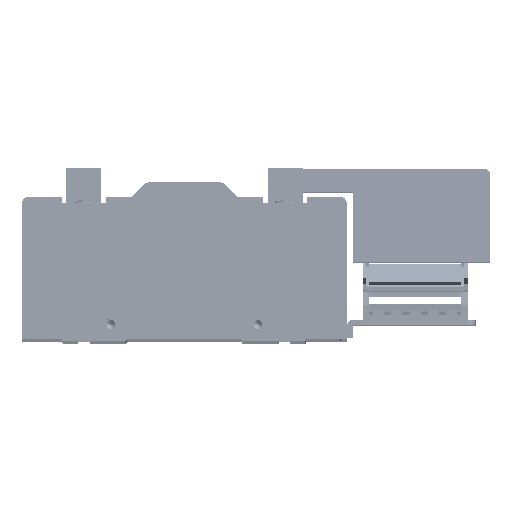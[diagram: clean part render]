
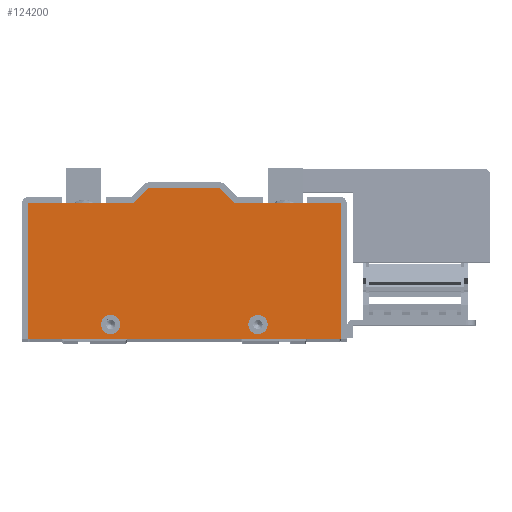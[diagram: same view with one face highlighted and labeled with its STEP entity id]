
A CAD part, top view. The second image highlights one B-rep face of the part: STEP entity #124200.
In plain terms, the highlighted planar face has unit normal (0, 0, 1).
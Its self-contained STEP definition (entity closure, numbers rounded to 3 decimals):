
#30213 = CARTESIAN_POINT ( 'NONE',  ( -85., -37., 9.525 ) ) ;
#30276 = DIRECTION ( 'NONE',  ( 1., 0., 0. ) ) ;
#30277 = VECTOR ( 'NONE', #30276, 1000. ) ;
#30278 = CARTESIAN_POINT ( 'NONE',  ( -85., -37., 9.525 ) ) ;
#30279 = LINE ( 'NONE', #30278, #30277 ) ;
#30394 = DIRECTION ( 'NONE',  ( 1., 0., 0. ) ) ;
#30395 = DIRECTION ( 'NONE',  ( 0., 0., 1. ) ) ;
#30396 = CARTESIAN_POINT ( 'NONE',  ( -40., -29., 9.525 ) ) ;
#30397 = AXIS2_PLACEMENT_3D ( 'NONE', #30396, #30395, #30394 ) ;
#30398 = CIRCLE ( 'NONE', #30397, 5.25 ) ;
#30501 = CARTESIAN_POINT ( 'NONE',  ( 34.75, -29., 9.525 ) ) ;
#30554 = CARTESIAN_POINT ( 'NONE',  ( -45.25, -29., 9.525 ) ) ;
#30589 = DIRECTION ( 'NONE',  ( 1., 0., 0. ) ) ;
#30590 = DIRECTION ( 'NONE',  ( 0., 0., 1. ) ) ;
#30591 = CARTESIAN_POINT ( 'NONE',  ( 40., -29., 9.525 ) ) ;
#30592 = AXIS2_PLACEMENT_3D ( 'NONE', #30591, #30590, #30589 ) ;
#30593 = CIRCLE ( 'NONE', #30592, 5.25 ) ;
#30640 = CARTESIAN_POINT ( 'NONE',  ( -34.75, -29., 9.525 ) ) ;
#30654 = CARTESIAN_POINT ( 'NONE',  ( 45.25, -29., 9.525 ) ) ;
#30690 = CARTESIAN_POINT ( 'NONE',  ( -85., 37., 9.525 ) ) ;
#30691 = DIRECTION ( 'NONE',  ( 0., -1., 0. ) ) ;
#30692 = VECTOR ( 'NONE', #30691, 1000. ) ;
#30693 = CARTESIAN_POINT ( 'NONE',  ( -85., 37., 9.525 ) ) ;
#30694 = LINE ( 'NONE', #30693, #30692 ) ;
#30712 = CARTESIAN_POINT ( 'NONE',  ( 85., -37., 9.525 ) ) ;
#30719 = CARTESIAN_POINT ( 'NONE',  ( 85., 37., 9.525 ) ) ;
#30731 = DIRECTION ( 'NONE',  ( 1., 0., 0. ) ) ;
#30732 = DIRECTION ( 'NONE',  ( 0., 0., 1. ) ) ;
#30733 = CARTESIAN_POINT ( 'NONE',  ( -85., 37., 9.525 ) ) ;
#30734 = AXIS2_PLACEMENT_3D ( 'NONE', #30733, #30732, #30731 ) ;
#30735 = PLANE ( 'NONE',  #30734 ) ;
#30736 = FACE_OUTER_BOUND ( 'NONE', #125655, .T. ) ;
#30737 = FACE_BOUND ( 'NONE', #125642, .T. ) ;
#30738 = FACE_BOUND ( 'NONE', #124201, .T. ) ;
#30777 = DIRECTION ( 'NONE',  ( 0., 1., 0. ) ) ;
#30778 = VECTOR ( 'NONE', #30777, 1000. ) ;
#30779 = CARTESIAN_POINT ( 'NONE',  ( 85., 37., 9.525 ) ) ;
#30780 = LINE ( 'NONE', #30779, #30778 ) ;
#31106 = DIRECTION ( 'NONE',  ( -1., 0., 0. ) ) ;
#31107 = VECTOR ( 'NONE', #31106, 1000. ) ;
#31108 = CARTESIAN_POINT ( 'NONE',  ( 27.5, 37., 9.525 ) ) ;
#31109 = LINE ( 'NONE', #31108, #31107 ) ;
#32538 = LINE ( 'NONE', #32604, #32603 ) ;
#32554 = DIRECTION ( 'NONE',  ( -0.707, 0.707, 0. ) ) ;
#32555 = VECTOR ( 'NONE', #32554, 1000. ) ;
#32556 = CARTESIAN_POINT ( 'NONE',  ( 19.5, 45., 9.525 ) ) ;
#32557 = LINE ( 'NONE', #32556, #32555 ) ;
#32573 = CARTESIAN_POINT ( 'NONE',  ( 27.5, 37., 9.525 ) ) ;
#32602 = DIRECTION ( 'NONE',  ( -1., 0., 0. ) ) ;
#32603 = VECTOR ( 'NONE', #32602, 1000. ) ;
#32604 = CARTESIAN_POINT ( 'NONE',  ( -85., 37., 9.525 ) ) ;
#32675 = DIRECTION ( 'NONE',  ( -0.707, -0.707, 0. ) ) ;
#32676 = VECTOR ( 'NONE', #32675, 1000. ) ;
#32677 = CARTESIAN_POINT ( 'NONE',  ( -27.5, 37., 9.525 ) ) ;
#32678 = LINE ( 'NONE', #32677, #32676 ) ;
#32716 = DIRECTION ( 'NONE',  ( -1., 0., 0. ) ) ;
#32717 = VECTOR ( 'NONE', #32716, 1000. ) ;
#32718 = CARTESIAN_POINT ( 'NONE',  ( -19.5, 45., 9.525 ) ) ;
#32719 = LINE ( 'NONE', #32718, #32717 ) ;
#32728 = CARTESIAN_POINT ( 'NONE',  ( 19.5, 45., 9.525 ) ) ;
#32965 = DIRECTION ( 'NONE',  ( 1., 0., 0. ) ) ;
#32966 = DIRECTION ( 'NONE',  ( 0., 0., 1. ) ) ;
#32967 = CARTESIAN_POINT ( 'NONE',  ( 40., -29., 9.525 ) ) ;
#32968 = AXIS2_PLACEMENT_3D ( 'NONE', #32967, #32966, #32965 ) ;
#32969 = CIRCLE ( 'NONE', #32968, 5.25 ) ;
#32978 = DIRECTION ( 'NONE',  ( 1., 0., 0. ) ) ;
#32979 = DIRECTION ( 'NONE',  ( 0., 0., 1. ) ) ;
#32980 = CARTESIAN_POINT ( 'NONE',  ( -40., -29., 9.525 ) ) ;
#32981 = AXIS2_PLACEMENT_3D ( 'NONE', #32980, #32979, #32978 ) ;
#32982 = CIRCLE ( 'NONE', #32981, 5.25 ) ;
#33077 = CARTESIAN_POINT ( 'NONE',  ( -19.5, 45., 9.525 ) ) ;
#33119 = CARTESIAN_POINT ( 'NONE',  ( -27.5, 37., 9.525 ) ) ;
#123909 = VERTEX_POINT ( 'NONE', #30213 ) ;
#123915 = EDGE_CURVE ( 'NONE', #123909, #124170, #30279, .T. ) ;
#123972 = EDGE_CURVE ( 'NONE', #124083, #124143, #30398, .T. ) ;
#124077 = VERTEX_POINT ( 'NONE', #30501 ) ;
#124083 = VERTEX_POINT ( 'NONE', #30554 ) ;
#124133 = EDGE_CURVE ( 'NONE', #124077, #124134, #30593, .T. ) ;
#124134 = VERTEX_POINT ( 'NONE', #30654 ) ;
#124143 = VERTEX_POINT ( 'NONE', #30640 ) ;
#124170 = VERTEX_POINT ( 'NONE', #30712 ) ;
#124187 = EDGE_CURVE ( 'NONE', #124189, #123909, #30694, .T. ) ;
#124189 = VERTEX_POINT ( 'NONE', #30690 ) ;
#124200 = ADVANCED_FACE ( 'NONE', ( #30738, #30737, #30736 ), #30735, .T. ) ;
#124201 = EDGE_LOOP ( 'NONE', ( #124203, #125409 ) ) ;
#124203 = ORIENTED_EDGE ( 'NONE', *, *, #125398, .F. ) ;
#124211 = VERTEX_POINT ( 'NONE', #30719 ) ;
#124216 = EDGE_CURVE ( 'NONE', #124170, #124211, #30780, .T. ) ;
#124542 = EDGE_CURVE ( 'NONE', #124211, #125157, #31109, .T. ) ;
#125157 = VERTEX_POINT ( 'NONE', #32573 ) ;
#125164 = EDGE_CURVE ( 'NONE', #125157, #125265, #32557, .T. ) ;
#125172 = EDGE_CURVE ( 'NONE', #125494, #124189, #32538, .T. ) ;
#125252 = EDGE_CURVE ( 'NONE', #125479, #125494, #32678, .T. ) ;
#125265 = VERTEX_POINT ( 'NONE', #32728 ) ;
#125270 = EDGE_CURVE ( 'NONE', #125265, #125479, #32719, .T. ) ;
#125398 = EDGE_CURVE ( 'NONE', #124143, #124083, #32982, .T. ) ;
#125409 = ORIENTED_EDGE ( 'NONE', *, *, #123972, .F. ) ;
#125410 = ORIENTED_EDGE ( 'NONE', *, *, #125412, .F. ) ;
#125412 = EDGE_CURVE ( 'NONE', #124134, #124077, #32969, .T. ) ;
#125434 = ORIENTED_EDGE ( 'NONE', *, *, #124133, .F. ) ;
#125453 = ORIENTED_EDGE ( 'NONE', *, *, #123915, .T. ) ;
#125455 = ORIENTED_EDGE ( 'NONE', *, *, #124216, .T. ) ;
#125457 = ORIENTED_EDGE ( 'NONE', *, *, #124542, .T. ) ;
#125463 = ORIENTED_EDGE ( 'NONE', *, *, #125164, .T. ) ;
#125464 = ORIENTED_EDGE ( 'NONE', *, *, #125270, .T. ) ;
#125479 = VERTEX_POINT ( 'NONE', #33077 ) ;
#125494 = VERTEX_POINT ( 'NONE', #33119 ) ;
#125497 = ORIENTED_EDGE ( 'NONE', *, *, #124187, .T. ) ;
#125504 = ORIENTED_EDGE ( 'NONE', *, *, #125252, .T. ) ;
#125506 = ORIENTED_EDGE ( 'NONE', *, *, #125172, .T. ) ;
#125642 = EDGE_LOOP ( 'NONE', ( #125410, #125434 ) ) ;
#125655 = EDGE_LOOP ( 'NONE', ( #125497, #125453, #125455, #125457, #125463, #125464, #125504, #125506 ) ) ;
